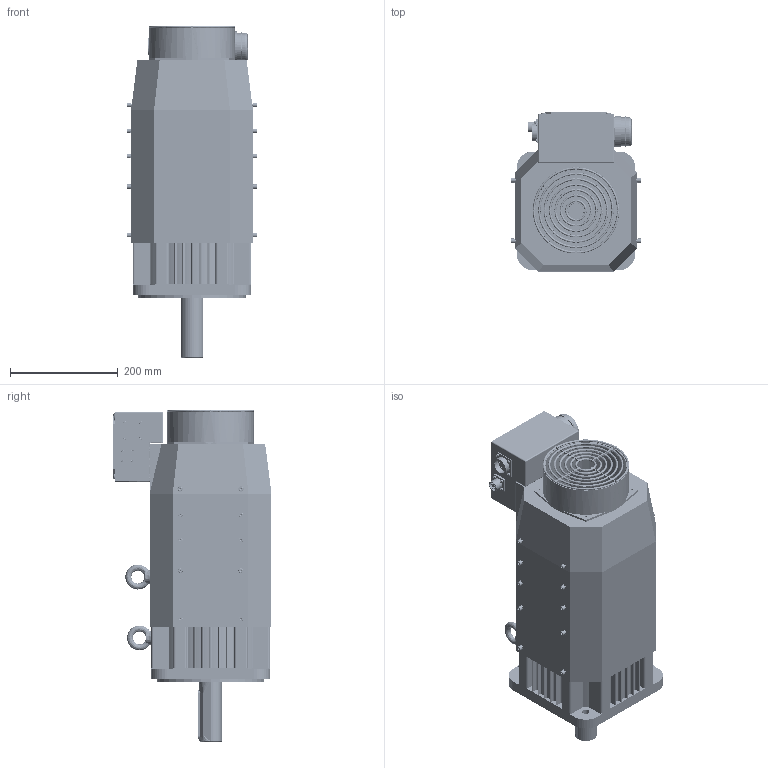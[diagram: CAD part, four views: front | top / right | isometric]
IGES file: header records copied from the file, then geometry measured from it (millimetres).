
Start section: SolidWorks IGES file using analytic representation for surfaces
Bounding box: 240.6 x 295 x 616 mm (x, y, z)
Surface area: 1561557.4 mm2 (no closed solid volume)
Topology: 0 solids, 0 shells, 2566 faces, 36888 edges, 36748 vertices
Faces by surface type: bspline 1366, revolution 1200
